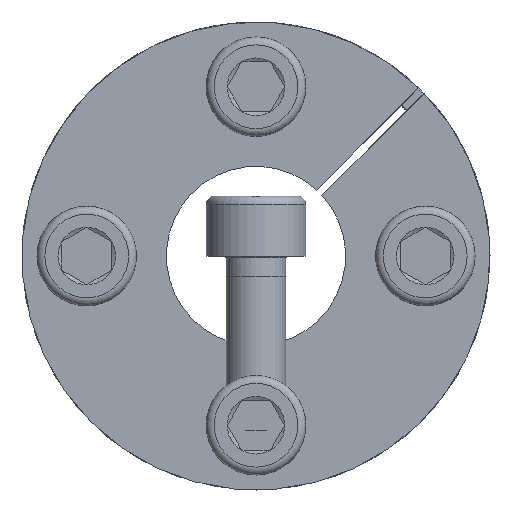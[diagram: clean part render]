
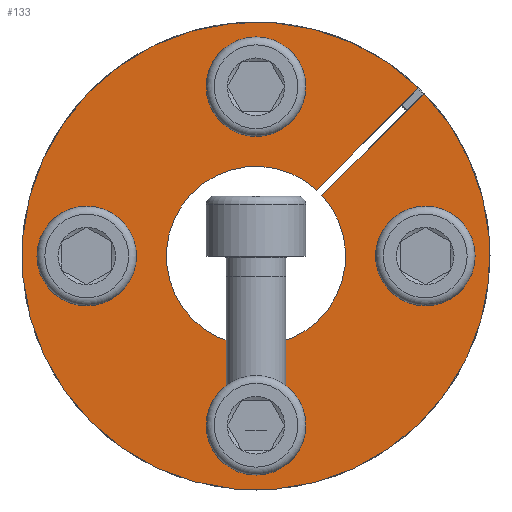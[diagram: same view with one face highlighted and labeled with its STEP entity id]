
A CAD part, front view. The second image highlights one B-rep face of the part: STEP entity #133.
In plain terms, the highlighted planar face has unit normal (0, -1, 0).
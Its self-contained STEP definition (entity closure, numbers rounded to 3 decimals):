
#133 = ADVANCED_FACE( '', ( #248, #249, #250, #251, #252 ), #253, .F. );
#248 = FACE_BOUND( '', #368, .T. );
#249 = FACE_BOUND( '', #369, .T. );
#250 = FACE_BOUND( '', #370, .T. );
#251 = FACE_BOUND( '', #371, .T. );
#252 = FACE_OUTER_BOUND( '', #372, .T. );
#253 = PLANE( '', #373 );
#368 = EDGE_LOOP( '', ( #672 ) );
#369 = EDGE_LOOP( '', ( #673 ) );
#370 = EDGE_LOOP( '', ( #674 ) );
#371 = EDGE_LOOP( '', ( #675 ) );
#372 = EDGE_LOOP( '', ( #676, #677, #678, #679 ) );
#373 = AXIS2_PLACEMENT_3D( '', #680, #681, #682 );
#672 = ORIENTED_EDGE( '', *, *, #1019, .T. );
#673 = ORIENTED_EDGE( '', *, *, #1016, .T. );
#674 = ORIENTED_EDGE( '', *, *, #1020, .T. );
#675 = ORIENTED_EDGE( '', *, *, #954, .T. );
#676 = ORIENTED_EDGE( '', *, *, #984, .T. );
#677 = ORIENTED_EDGE( '', *, *, #959, .T. );
#678 = ORIENTED_EDGE( '', *, *, #1010, .T. );
#679 = ORIENTED_EDGE( '', *, *, #1008, .F. );
#680 = CARTESIAN_POINT( '', ( 0., 0., 23.5 ) );
#681 = DIRECTION( '', ( 0., 1., 0. ) );
#682 = DIRECTION( '', ( 0., 0., 1. ) );
#954 = EDGE_CURVE( '', #1280, #1280, #1281, .T. );
#959 = EDGE_CURVE( '', #1284, #1288, #1290, .T. );
#984 = EDGE_CURVE( '', #1318, #1284, #1331, .T. );
#1008 = EDGE_CURVE( '', #1318, #1362, #1364, .T. );
#1010 = EDGE_CURVE( '', #1288, #1362, #1366, .T. );
#1016 = EDGE_CURVE( '', #1372, #1372, #1373, .T. );
#1019 = EDGE_CURVE( '', #1376, #1376, #1377, .T. );
#1020 = EDGE_CURVE( '', #1378, #1378, #1379, .T. );
#1280 = VERTEX_POINT( '', #1977 );
#1281 = CIRCLE( '', #1978, 3. );
#1284 = VERTEX_POINT( '', #1981 );
#1288 = VERTEX_POINT( '', #1986 );
#1290 = CIRCLE( '', #1989, 23.5 );
#1318 = VERTEX_POINT( '', #2021 );
#1331 = LINE( '', #2050, #2051 );
#1362 = VERTEX_POINT( '', #2091 );
#1364 = CIRCLE( '', #2094, 9. );
#1366 = LINE( '', #2096, #2097 );
#1372 = VERTEX_POINT( '', #2109 );
#1373 = CIRCLE( '', #2110, 3. );
#1376 = VERTEX_POINT( '', #2113 );
#1377 = CIRCLE( '', #2114, 3. );
#1378 = VERTEX_POINT( '', #2115 );
#1379 = CIRCLE( '', #2116, 3. );
#1977 = CARTESIAN_POINT( '', ( -17., 0., 3. ) );
#1978 = AXIS2_PLACEMENT_3D( '', #2271, #2272, #2273 );
#1981 = CARTESIAN_POINT( '', ( 16.35, 0., 16.88 ) );
#1986 = CARTESIAN_POINT( '', ( 16.88, 0., 16.35 ) );
#1989 = AXIS2_PLACEMENT_3D( '', #2279, #2280, #2281 );
#2021 = CARTESIAN_POINT( '', ( 6.093, 0., 6.624 ) );
#2050 = CARTESIAN_POINT( '', ( 6.093, 0., 6.624 ) );
#2051 = VECTOR( '', #2311, 1000. );
#2091 = CARTESIAN_POINT( '', ( 6.624, 0., 6.093 ) );
#2094 = AXIS2_PLACEMENT_3D( '', #2343, #2344, #2345 );
#2096 = CARTESIAN_POINT( '', ( 16.882, 0., 16.352 ) );
#2097 = VECTOR( '', #2346, 1000. );
#2109 = CARTESIAN_POINT( '', ( 17., 0., -3. ) );
#2110 = AXIS2_PLACEMENT_3D( '', #2350, #2351, #2352 );
#2113 = CARTESIAN_POINT( '', ( 3., 0., 17. ) );
#2114 = AXIS2_PLACEMENT_3D( '', #2353, #2354, #2355 );
#2115 = CARTESIAN_POINT( '', ( -3., 0., -17. ) );
#2116 = AXIS2_PLACEMENT_3D( '', #2356, #2357, #2358 );
#2271 = CARTESIAN_POINT( '', ( -17., 0., 0. ) );
#2272 = DIRECTION( '', ( 0., 1., 0. ) );
#2273 = DIRECTION( '', ( 0., 0., 1. ) );
#2279 = CARTESIAN_POINT( '', ( 0., 0., 0. ) );
#2280 = DIRECTION( '', ( 0., -1., 0. ) );
#2281 = DIRECTION( '', ( 0., 0., -1. ) );
#2311 = DIRECTION( '', ( 0.707, 0., 0.707 ) );
#2343 = CARTESIAN_POINT( '', ( 0., 0., 0. ) );
#2344 = DIRECTION( '', ( 0., -1., 0. ) );
#2345 = DIRECTION( '', ( 0., 0., -1. ) );
#2346 = DIRECTION( '', ( -0.707, 0., -0.707 ) );
#2350 = CARTESIAN_POINT( '', ( 17., 0., 0. ) );
#2351 = DIRECTION( '', ( 0., 1., 0. ) );
#2352 = DIRECTION( '', ( 0., 0., -1. ) );
#2353 = CARTESIAN_POINT( '', ( 0., 0., 17. ) );
#2354 = DIRECTION( '', ( 0., 1., 0. ) );
#2355 = DIRECTION( '', ( 1., 0., 0. ) );
#2356 = CARTESIAN_POINT( '', ( 0., 0., -17. ) );
#2357 = DIRECTION( '', ( 0., 1., 0. ) );
#2358 = DIRECTION( '', ( -1., 0., 0. ) );
